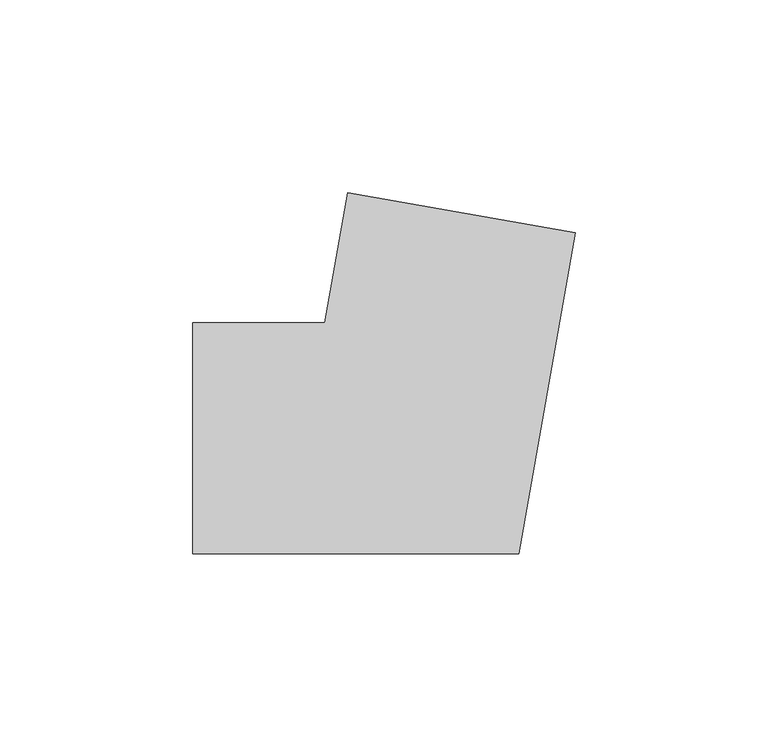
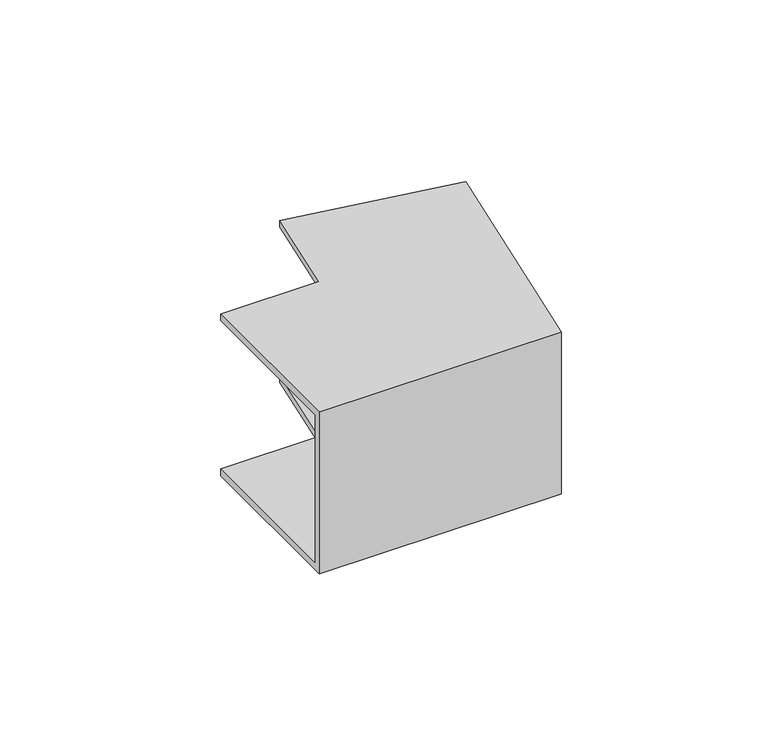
"""IFC4 building model written with IfcOpenShell, lengths in millimetres: cable carrier fitting geometry, КНС_УголВнутренний_ILC_DKC : Угол внутренний_DKC."""

from ifc_helpers import new_model, si_unit, origin, place, context, project, spatial, faceted_brep, source, transform, mapped, element, save


def cable_carrier_fitting_6b526f06(model_context):
    return source(origin(), model_context, "Body", "Brep", [
        faceted_brep([(-59.541476, -30.0, 30.0), (-59.541476, 30.0, 30.0), (-59.541476, 30.0, 27.5), (-59.541476, -27.5, 27.5), (-59.541476, -27.5, -27.5), (-59.541476, 30.0, -27.5), (-59.541476, 30.0, -30.0), (-59.541476, -30.0, -30.0), (39.8835014, 53.4274619, 30.0), (39.8835014, 53.4274619, -30.0), (-19.2049638, 63.8463525, -30.0), (-19.2049638, 63.8463525, -27.5), (37.421482, 53.8615823, -27.5), (37.421482, 53.8615823, 27.5), (-19.2049638, 63.8463525, 27.5), (-19.2049638, 63.8463525, 30.0), (25.1729889, -30.0, 30.0), (-25.1729889, 30.0, 30.0), (-25.1729889, 30.0, 27.5), (23.0752399, -27.5, 27.5), (23.0752399, -27.5, -27.5), (-25.1729889, 30.0, -27.5), (-25.1729889, 30.0, -30.0), (25.1729889, -30.0, -30.0)], [[[0, 1, 2, 3, 4, 5, 6, 7]], [[8, 9, 10, 11, 12, 13, 14, 15]], [[1, 0, 16, 8, 15, 17]], [[2, 1, 17, 18]], [[3, 2, 18, 14, 13, 19]], [[4, 3, 19, 20]], [[5, 4, 20, 12, 11, 21]], [[6, 5, 21, 22]], [[7, 6, 22, 10, 9, 23]], [[0, 7, 23, 16]], [[18, 17, 15, 14]], [[20, 19, 13, 12]], [[22, 21, 11, 10]], [[16, 23, 9, 8]]]),
    ])


if __name__ == "__main__":
    model = new_model("IFC4")
    model_context = context("Model", 3, world=origin())
    ifc_project = project(units=[si_unit("LENGTHUNIT", "METRE", prefix="MILLI")], contexts=[model_context])
    site = spatial("IfcSite", under=ifc_project)
    building = spatial("IfcBuilding", under=site)
    placement = place(None, origin())
    cable_carrier_fitting_shape = cable_carrier_fitting_6b526f06(model_context)
    element("IfcCableCarrierFitting", 1, ObjectType="КНС_УголВнутренний_ILC_DKC : Угол внутренний_DKC", at=placement, inside=building, context=model_context, shape_type="MappedRepresentation", body=[
        mapped(cable_carrier_fitting_shape, transform((0.0, 0.0, 0.0), x_axis=(1.0, 0.0, 0.0), y_axis=(0.0, 1.0, 0.0), z_axis=(0.0, 0.0, 1.0))),
    ])
    save(model, "model.ifc")
